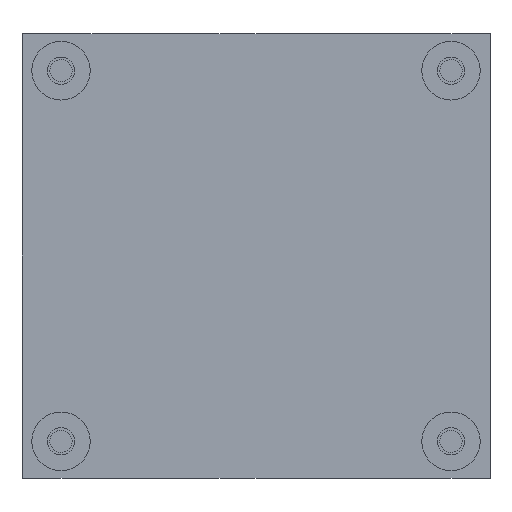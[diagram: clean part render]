
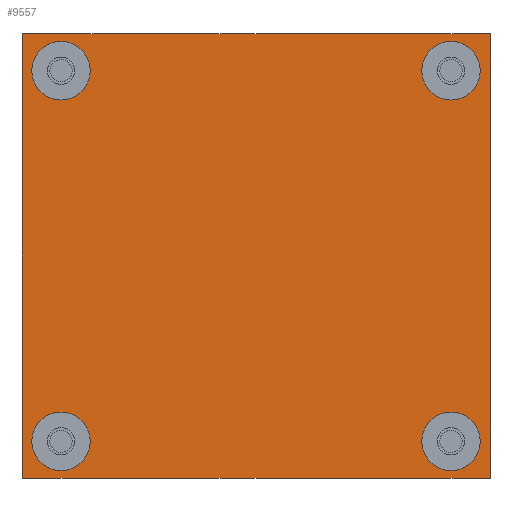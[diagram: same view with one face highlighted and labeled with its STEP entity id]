
A CAD part, front view. The second image highlights one B-rep face of the part: STEP entity #9557.
In plain terms, the highlighted planar face has unit normal (0, -1, 0).
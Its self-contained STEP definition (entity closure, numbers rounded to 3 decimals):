
#108 = EDGE_LOOP ( 'NONE', ( #606, #3545 ) ) ;
#606 = ORIENTED_EDGE ( 'NONE', *, *, #26296, .T. ) ;
#789 = EDGE_LOOP ( 'NONE', ( #5712, #4294, #22239, #1006 ) ) ;
#882 = LINE ( 'NONE', #15035, #23890 ) ;
#1006 = ORIENTED_EDGE ( 'NONE', *, *, #2236, .F. ) ;
#1178 = VERTEX_POINT ( 'NONE', #15715 ) ;
#1570 = CARTESIAN_POINT ( 'NONE',  ( 40.17, 27.95, 29.526 ) ) ;
#2236 = EDGE_CURVE ( 'NONE', #9955, #21517, #882, .T. ) ;
#2306 = VERTEX_POINT ( 'NONE', #17694 ) ;
#2593 = EDGE_CURVE ( 'NONE', #21517, #13524, #5508, .T. ) ;
#2686 = CIRCLE ( 'NONE', #7404, 3.81 ) ;
#2720 = ORIENTED_EDGE ( 'NONE', *, *, #25244, .T. ) ;
#3022 = CARTESIAN_POINT ( 'NONE',  ( -14.44, 27.95, 29.526 ) ) ;
#3262 = DIRECTION ( 'NONE',  ( 0., 1., 0. ) ) ;
#3545 = ORIENTED_EDGE ( 'NONE', *, *, #15518, .T. ) ;
#3619 = DIRECTION ( 'NONE',  ( 0., 1., 0. ) ) ;
#3687 = CARTESIAN_POINT ( 'NONE',  ( 36.36, 27.95, 77.786 ) ) ;
#4044 = VERTEX_POINT ( 'NONE', #15939 ) ;
#4071 = CARTESIAN_POINT ( 'NONE',  ( -18.25, 27.95, 77.786 ) ) ;
#4294 = ORIENTED_EDGE ( 'NONE', *, *, #8480, .F. ) ;
#4347 = DIRECTION ( 'NONE',  ( 0., 1., 0. ) ) ;
#4497 = FACE_BOUND ( 'NONE', #24403, .T. ) ;
#4609 = CARTESIAN_POINT ( 'NONE',  ( -19.52, 27.95, 24.7 ) ) ;
#4848 = ORIENTED_EDGE ( 'NONE', *, *, #6489, .T. ) ;
#5263 = DIRECTION ( 'NONE',  ( 1., 0., 0. ) ) ;
#5407 = ORIENTED_EDGE ( 'NONE', *, *, #24744, .T. ) ;
#5414 = VECTOR ( 'NONE', #15531, 1000. ) ;
#5508 = LINE ( 'NONE', #21408, #5414 ) ;
#5607 = CIRCLE ( 'NONE', #9015, 3.81 ) ;
#5712 = ORIENTED_EDGE ( 'NONE', *, *, #15597, .F. ) ;
#5717 = DIRECTION ( 'NONE',  ( 1., 0., 0. ) ) ;
#5799 = EDGE_LOOP ( 'NONE', ( #2720, #17820 ) ) ;
#5905 = AXIS2_PLACEMENT_3D ( 'NONE', #9046, #20921, #25294 ) ;
#6073 = CIRCLE ( 'NONE', #24789, 3.81 ) ;
#6489 = EDGE_CURVE ( 'NONE', #2306, #8742, #23368, .T. ) ;
#6506 = DIRECTION ( 'NONE',  ( 1., 0., 0. ) ) ;
#7361 = DIRECTION ( 'NONE',  ( 0., 1., 0. ) ) ;
#7404 = AXIS2_PLACEMENT_3D ( 'NONE', #15524, #3619, #11784 ) ;
#7745 = EDGE_CURVE ( 'NONE', #4044, #1178, #24319, .T. ) ;
#7810 = VERTEX_POINT ( 'NONE', #4609 ) ;
#7923 = CARTESIAN_POINT ( 'NONE',  ( -19.52, 27.95, 82.612 ) ) ;
#8208 = EDGE_CURVE ( 'NONE', #11380, #17650, #20969, .T. ) ;
#8368 = FACE_BOUND ( 'NONE', #5799, .T. ) ;
#8480 = EDGE_CURVE ( 'NONE', #13524, #7810, #16793, .T. ) ;
#8742 = VERTEX_POINT ( 'NONE', #1570 ) ;
#9015 = AXIS2_PLACEMENT_3D ( 'NONE', #15494, #7361, #15220 ) ;
#9046 = CARTESIAN_POINT ( 'NONE',  ( 36.36, 27.95, 29.526 ) ) ;
#9166 = CARTESIAN_POINT ( 'NONE',  ( 41.44, 27.95, 82.612 ) ) ;
#9472 = DIRECTION ( 'NONE',  ( 0., 1., 0. ) ) ;
#9557 = ADVANCED_FACE ( 'NONE', ( #12137, #8368, #12781, #4497, #23187 ), #13037, .F. ) ;
#9852 = DIRECTION ( 'NONE',  ( 1., 0., 0. ) ) ;
#9888 = ORIENTED_EDGE ( 'NONE', *, *, #7745, .T. ) ;
#9955 = VERTEX_POINT ( 'NONE', #7923 ) ;
#11157 = DIRECTION ( 'NONE',  ( 0., 1., 0. ) ) ;
#11380 = VERTEX_POINT ( 'NONE', #24661 ) ;
#11784 = DIRECTION ( 'NONE',  ( 1., 0., 0. ) ) ;
#12137 = FACE_BOUND ( 'NONE', #18296, .T. ) ;
#12781 = FACE_BOUND ( 'NONE', #108, .T. ) ;
#13037 = PLANE ( 'NONE',  #22074 ) ;
#13524 = VERTEX_POINT ( 'NONE', #21013 ) ;
#13852 = DIRECTION ( 'NONE',  ( 1., 0., 0. ) ) ;
#14322 = CARTESIAN_POINT ( 'NONE',  ( 32.55, 27.95, 77.786 ) ) ;
#14510 = CARTESIAN_POINT ( 'NONE',  ( -19.52, 27.95, 24.7 ) ) ;
#14625 = DIRECTION ( 'NONE',  ( 1., 0., 0. ) ) ;
#14987 = CIRCLE ( 'NONE', #22670, 3.81 ) ;
#15035 = CARTESIAN_POINT ( 'NONE',  ( -19.52, 27.95, 82.612 ) ) ;
#15220 = DIRECTION ( 'NONE',  ( 1., 0., 0. ) ) ;
#15494 = CARTESIAN_POINT ( 'NONE',  ( 36.36, 27.95, 77.786 ) ) ;
#15518 = EDGE_CURVE ( 'NONE', #24142, #22689, #5607, .T. ) ;
#15524 = CARTESIAN_POINT ( 'NONE',  ( -14.44, 27.95, 77.786 ) ) ;
#15531 = DIRECTION ( 'NONE',  ( 0., 0., -1. ) ) ;
#15597 = EDGE_CURVE ( 'NONE', #7810, #9955, #20959, .T. ) ;
#15715 = CARTESIAN_POINT ( 'NONE',  ( -10.63, 27.95, 29.526 ) ) ;
#15939 = CARTESIAN_POINT ( 'NONE',  ( -18.25, 27.95, 29.526 ) ) ;
#16793 = LINE ( 'NONE', #24792, #25975 ) ;
#17079 = AXIS2_PLACEMENT_3D ( 'NONE', #22636, #4347, #14625 ) ;
#17450 = CARTESIAN_POINT ( 'NONE',  ( -14.44, 27.95, 77.786 ) ) ;
#17465 = CARTESIAN_POINT ( 'NONE',  ( -19.52, 27.95, 24.7 ) ) ;
#17556 = AXIS2_PLACEMENT_3D ( 'NONE', #17450, #9472, #9852 ) ;
#17650 = VERTEX_POINT ( 'NONE', #4071 ) ;
#17694 = CARTESIAN_POINT ( 'NONE',  ( 32.55, 27.95, 29.526 ) ) ;
#17820 = ORIENTED_EDGE ( 'NONE', *, *, #8208, .T. ) ;
#18296 = EDGE_LOOP ( 'NONE', ( #9888, #5407 ) ) ;
#18632 = DIRECTION ( 'NONE',  ( 0., 1., 0. ) ) ;
#18690 = EDGE_CURVE ( 'NONE', #8742, #2306, #14987, .T. ) ;
#18862 = ORIENTED_EDGE ( 'NONE', *, *, #18690, .T. ) ;
#19147 = CARTESIAN_POINT ( 'NONE',  ( 40.17, 27.95, 77.786 ) ) ;
#19450 = DIRECTION ( 'NONE',  ( 0., 1., 0. ) ) ;
#19858 = AXIS2_PLACEMENT_3D ( 'NONE', #3687, #19450, #5717 ) ;
#20527 = VECTOR ( 'NONE', #23366, 1000. ) ;
#20921 = DIRECTION ( 'NONE',  ( 0., 1., 0. ) ) ;
#20959 = LINE ( 'NONE', #17465, #20527 ) ;
#20969 = CIRCLE ( 'NONE', #17556, 3.81 ) ;
#21013 = CARTESIAN_POINT ( 'NONE',  ( 41.44, 27.95, 24.7 ) ) ;
#21107 = CIRCLE ( 'NONE', #19858, 3.81 ) ;
#21160 = CARTESIAN_POINT ( 'NONE',  ( 36.36, 27.95, 29.526 ) ) ;
#21408 = CARTESIAN_POINT ( 'NONE',  ( 41.44, 27.95, 24.7 ) ) ;
#21517 = VERTEX_POINT ( 'NONE', #9166 ) ;
#22074 = AXIS2_PLACEMENT_3D ( 'NONE', #14510, #18632, #24630 ) ;
#22239 = ORIENTED_EDGE ( 'NONE', *, *, #2593, .F. ) ;
#22636 = CARTESIAN_POINT ( 'NONE',  ( -14.44, 27.95, 29.526 ) ) ;
#22670 = AXIS2_PLACEMENT_3D ( 'NONE', #21160, #3262, #5263 ) ;
#22689 = VERTEX_POINT ( 'NONE', #14322 ) ;
#22943 = DIRECTION ( 'NONE',  ( -1., 0., 0. ) ) ;
#23187 = FACE_OUTER_BOUND ( 'NONE', #789, .T. ) ;
#23366 = DIRECTION ( 'NONE',  ( 0., 0., 1. ) ) ;
#23368 = CIRCLE ( 'NONE', #5905, 3.81 ) ;
#23890 = VECTOR ( 'NONE', #6506, 1000. ) ;
#24142 = VERTEX_POINT ( 'NONE', #19147 ) ;
#24319 = CIRCLE ( 'NONE', #17079, 3.81 ) ;
#24403 = EDGE_LOOP ( 'NONE', ( #4848, #18862 ) ) ;
#24630 = DIRECTION ( 'NONE',  ( 1., 0., 0. ) ) ;
#24661 = CARTESIAN_POINT ( 'NONE',  ( -10.63, 27.95, 77.786 ) ) ;
#24744 = EDGE_CURVE ( 'NONE', #1178, #4044, #6073, .T. ) ;
#24789 = AXIS2_PLACEMENT_3D ( 'NONE', #3022, #11157, #13852 ) ;
#24792 = CARTESIAN_POINT ( 'NONE',  ( -19.52, 27.95, 24.7 ) ) ;
#25244 = EDGE_CURVE ( 'NONE', #17650, #11380, #2686, .T. ) ;
#25294 = DIRECTION ( 'NONE',  ( 1., 0., 0. ) ) ;
#25975 = VECTOR ( 'NONE', #22943, 1000. ) ;
#26296 = EDGE_CURVE ( 'NONE', #22689, #24142, #21107, .T. ) ;
